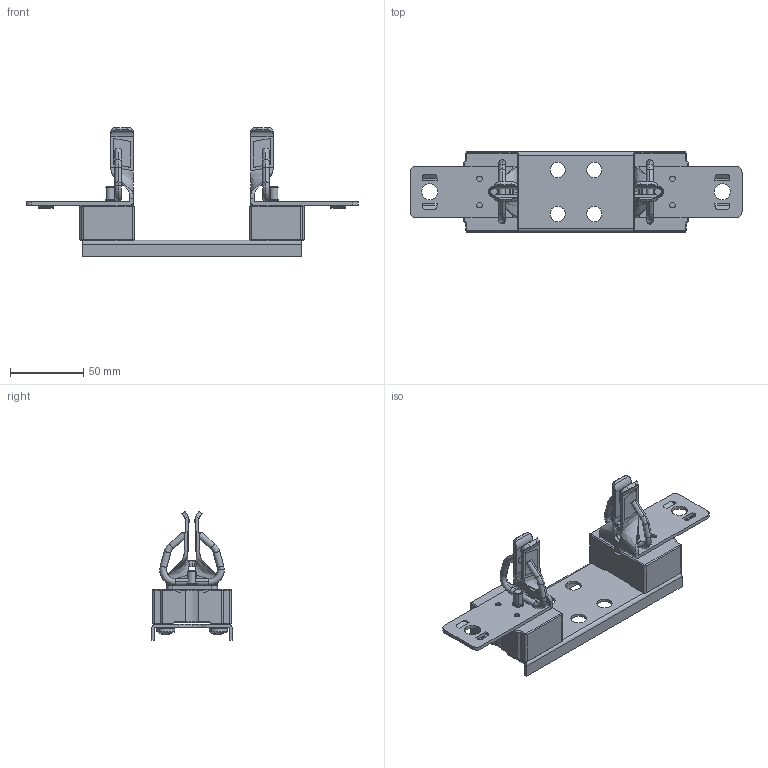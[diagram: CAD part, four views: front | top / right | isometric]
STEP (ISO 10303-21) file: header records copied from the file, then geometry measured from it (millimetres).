
FILE_DESCRIPTION (( 'STEP AP214' ), '1' );
FILE_NAME ('SPF2.step', '2011-08-22T11:44:51', ( 'Radek Veselý' ), ( 'Siemens and Partners' ), 'SwSTEP 2.0', 'SolidWorks 2006303', '' );
FILE_SCHEMA (( 'AUTOMOTIVE_DESIGN' ));
Length unit declared in the file: millimetre
Products named in the file (1): SPF2
Bounding box: 227 x 55 x 88.2 mm (x, y, z)
Volume: 135501.8 mm3; surface area: 66429.2 mm2
Topology: 19 solids, 19 shells, 741 faces, 1784 edges, 1103 vertices
Faces by surface type: plane 376, cylinder 229, cone 56, torus 48, bspline 24, sphere 8
Entity records: 30865 total; most frequent: CARTESIAN_POINT 5327, DIRECTION 3661, ORIENTED_EDGE 3520, EDGE_CURVE 1760, AXIS2_PLACEMENT_3D 1348, VERTEX_POINT 1103, VECTOR 965, LINE 965
